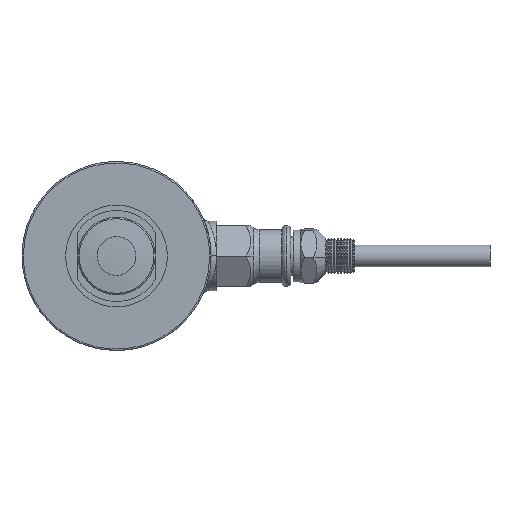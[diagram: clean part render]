
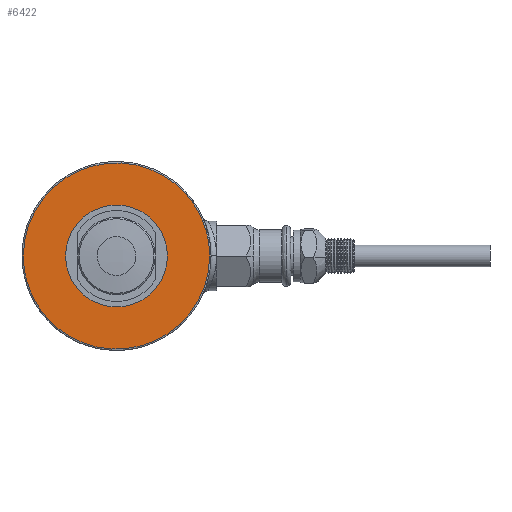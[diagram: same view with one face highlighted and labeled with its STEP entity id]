
A CAD part, front view. The second image highlights one B-rep face of the part: STEP entity #6422.
In plain terms, the highlighted planar face has unit normal (0, -1, 0).
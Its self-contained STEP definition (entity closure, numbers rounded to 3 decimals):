
#174 = CARTESIAN_POINT ( 'NONE',  ( -33.65, 16.4, -67.3 ) ) ;
#178 = CARTESIAN_POINT ( 'NONE',  ( -18.415, 16.4, 0. ) ) ;
#390 = CARTESIAN_POINT ( 'NONE',  ( 0., 16.4, 0. ) ) ;
#426 = CIRCLE ( 'NONE', #6202, 18.415 ) ;
#580 = CARTESIAN_POINT ( 'NONE',  ( 33.65, 16.4, 0. ) ) ;
#1019 = DIRECTION ( 'NONE',  ( 0., -1., 0. ) ) ;
#1092 = FACE_OUTER_BOUND ( 'NONE', #6616, .T. ) ;
#1898 = VERTEX_POINT ( 'NONE', #178 ) ;
#1912 = ORIENTED_EDGE ( 'NONE', *, *, #6647, .F. ) ;
#2044 = ORIENTED_EDGE ( 'NONE', *, *, #3817, .F. ) ;
#2053 = VERTEX_POINT ( 'NONE', #4409 ) ;
#2224 = FACE_BOUND ( 'NONE', #4333, .T. ) ;
#2363 = CARTESIAN_POINT ( 'NONE',  ( 33.65, 16.4, 0. ) ) ;
#2637 = DIRECTION ( 'NONE',  ( 0., -1., 0. ) ) ;
#3366 = CARTESIAN_POINT ( 'NONE',  ( -33.65, 16.4, 67.3 ) ) ;
#3438 = CARTESIAN_POINT ( 'NONE',  ( 33.65, 16.4, 67.3 ) ) ;
#3785 = DIRECTION ( 'NONE',  ( 1., 0., 0. ) ) ;
#3817 = EDGE_CURVE ( 'NONE', #5347, #1898, #426, .T. ) ;
#4071 = AXIS2_PLACEMENT_3D ( 'NONE', #4378, #1019, #4455 ) ;
#4136 =( BOUNDED_CURVE ( )  B_SPLINE_CURVE ( 3, ( #2363, #5227, #174, #4627 ),
 .UNSPECIFIED., .F., .T. ) 
 B_SPLINE_CURVE_WITH_KNOTS ( ( 4, 4 ),
 ( 0., 1. ),
 .UNSPECIFIED. ) 
 CURVE ( )  GEOMETRIC_REPRESENTATION_ITEM ( )  RATIONAL_B_SPLINE_CURVE ( ( 1., 0.333, 0.333, 1. ) ) 
 REPRESENTATION_ITEM ( '' )  );
#4333 = EDGE_LOOP ( 'NONE', ( #2044, #4823 ) ) ;
#4378 = CARTESIAN_POINT ( 'NONE',  ( 0., 16.4, 0. ) ) ;
#4409 = CARTESIAN_POINT ( 'NONE',  ( -33.65, 16.4, 0. ) ) ;
#4455 = DIRECTION ( 'NONE',  ( 1., 0., 0. ) ) ;
#4458 = PLANE ( 'NONE',  #5506 ) ;
#4493 = DIRECTION ( 'NONE',  ( 0., 1., 0. ) ) ;
#4503 = CARTESIAN_POINT ( 'NONE',  ( 18.415, 16.4, 0. ) ) ;
#4627 = CARTESIAN_POINT ( 'NONE',  ( -33.65, 16.4, 0. ) ) ;
#4823 = ORIENTED_EDGE ( 'NONE', *, *, #6112, .F. ) ;
#5227 = CARTESIAN_POINT ( 'NONE',  ( 33.65, 16.4, -67.3 ) ) ;
#5294 = EDGE_CURVE ( 'NONE', #2053, #6726, #6925, .T. ) ;
#5347 = VERTEX_POINT ( 'NONE', #4503 ) ;
#5506 = AXIS2_PLACEMENT_3D ( 'NONE', #6715, #4493, #6745 ) ;
#5554 = ORIENTED_EDGE ( 'NONE', *, *, #5294, .F. ) ;
#5585 = CARTESIAN_POINT ( 'NONE',  ( -33.65, 16.4, 0. ) ) ;
#6112 = EDGE_CURVE ( 'NONE', #1898, #5347, #6318, .T. ) ;
#6202 = AXIS2_PLACEMENT_3D ( 'NONE', #390, #2637, #3785 ) ;
#6213 = CARTESIAN_POINT ( 'NONE',  ( 33.65, 16.4, 0. ) ) ;
#6318 = CIRCLE ( 'NONE', #4071, 18.415 ) ;
#6422 = ADVANCED_FACE ( 'NONE', ( #1092, #2224 ), #4458, .F. ) ;
#6616 = EDGE_LOOP ( 'NONE', ( #1912, #5554 ) ) ;
#6647 = EDGE_CURVE ( 'NONE', #6726, #2053, #4136, .T. ) ;
#6715 = CARTESIAN_POINT ( 'NONE',  ( -18.415, 16.4, 0. ) ) ;
#6726 = VERTEX_POINT ( 'NONE', #580 ) ;
#6745 = DIRECTION ( 'NONE',  ( -1., 0., 0. ) ) ;
#6925 =( BOUNDED_CURVE ( )  B_SPLINE_CURVE ( 3, ( #5585, #3366, #3438, #6213 ),
 .UNSPECIFIED., .F., .T. ) 
 B_SPLINE_CURVE_WITH_KNOTS ( ( 4, 4 ),
 ( 0., 1. ),
 .UNSPECIFIED. ) 
 CURVE ( )  GEOMETRIC_REPRESENTATION_ITEM ( )  RATIONAL_B_SPLINE_CURVE ( ( 1., 0.333, 0.333, 1. ) ) 
 REPRESENTATION_ITEM ( '' )  );
